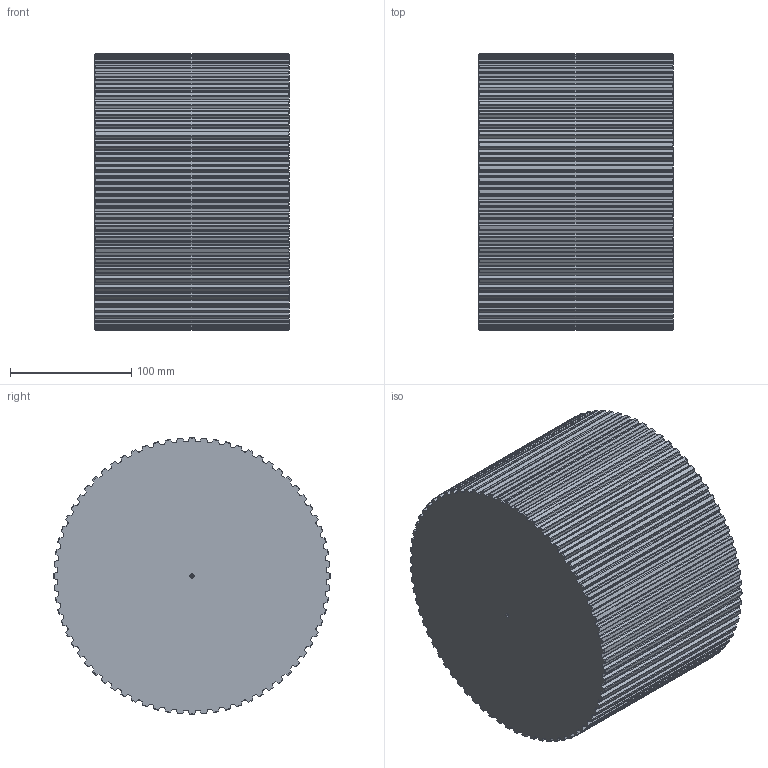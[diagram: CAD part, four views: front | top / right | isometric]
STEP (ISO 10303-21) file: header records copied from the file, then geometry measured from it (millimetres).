
FILE_DESCRIPTION(('STEP AP203'),'1');
FILE_NAME('bart_72.stp','2022-04-21T08:22:51',('TraceParts'),('TraceParts S.A.'),'Spatial InterOp 3D',' ',' ');
FILE_SCHEMA(('CONFIG_CONTROL_DESIGN'));
Length unit declared in the file: millimetre
Products named in the file (1): 1
Bounding box: 160 x 228.17 x 228.17 mm (x, y, z)
Volume: 6381680.5 mm3; surface area: 230863.6 mm2
Topology: 1 solids, 1 shells, 738 faces, 2200 edges, 1462 vertices
Faces by surface type: cylinder 436, cone 156, plane 146
Entity records: 26724 total; most frequent: CARTESIAN_POINT 7565, ORIENTED_EDGE 4392, DIRECTION 3838, EDGE_CURVE 2196, AXIS2_PLACEMENT_3D 1479, VERTEX_POINT 1462, LINE 880, VECTOR 880
